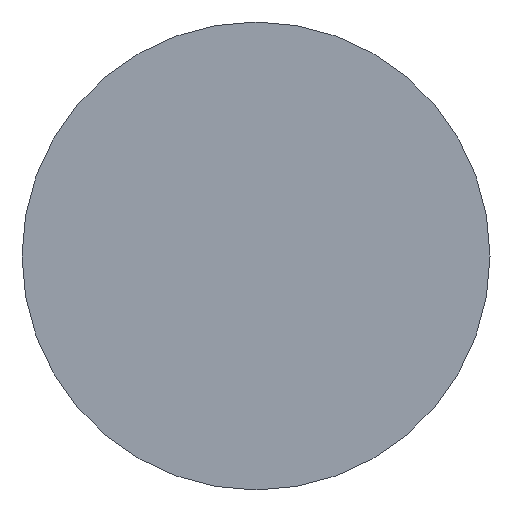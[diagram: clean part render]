
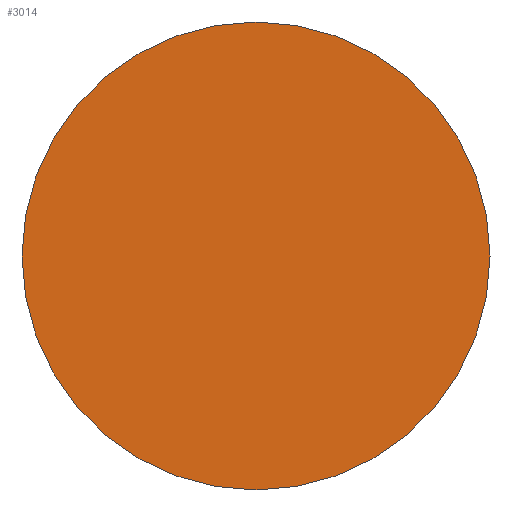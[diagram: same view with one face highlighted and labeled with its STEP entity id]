
A CAD part, front view. The second image highlights one B-rep face of the part: STEP entity #3014.
In plain terms, the highlighted planar face has unit normal (0, -1, 0).
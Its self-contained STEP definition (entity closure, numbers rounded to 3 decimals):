
#118 = AXIS2_PLACEMENT_3D ( 'NONE', #1493, #1872, #2501 ) ;
#373 = ORIENTED_EDGE ( 'NONE', *, *, #1808, .T. ) ;
#752 = VERTEX_POINT ( 'NONE', #2448 ) ;
#887 = AXIS2_PLACEMENT_3D ( 'NONE', #1599, #2889, #4198 ) ;
#923 = CIRCLE ( 'NONE', #3300, 41. ) ;
#931 = DIRECTION ( 'NONE',  ( 0., -1., 0. ) ) ;
#1493 = CARTESIAN_POINT ( 'NONE',  ( 0., -30., 0. ) ) ;
#1599 = CARTESIAN_POINT ( 'NONE',  ( 41., -30., 0. ) ) ;
#1803 = ORIENTED_EDGE ( 'NONE', *, *, #2067, .T. ) ;
#1808 = EDGE_CURVE ( 'NONE', #752, #3433, #923, .T. ) ;
#1872 = DIRECTION ( 'NONE',  ( 0., -1., 0. ) ) ;
#2067 = EDGE_CURVE ( 'NONE', #3433, #752, #2300, .T. ) ;
#2300 = CIRCLE ( 'NONE', #118, 41. ) ;
#2448 = CARTESIAN_POINT ( 'NONE',  ( 41., -30., 0. ) ) ;
#2501 = DIRECTION ( 'NONE',  ( 1., 0., 0. ) ) ;
#2602 = FACE_OUTER_BOUND ( 'NONE', #2737, .T. ) ;
#2737 = EDGE_LOOP ( 'NONE', ( #373, #1803 ) ) ;
#2889 = DIRECTION ( 'NONE',  ( 0., -1., 0. ) ) ;
#2928 = DIRECTION ( 'NONE',  ( 1., 0., 0. ) ) ;
#3014 = ADVANCED_FACE ( 'NONE', ( #2602 ), #3579, .T. ) ;
#3300 = AXIS2_PLACEMENT_3D ( 'NONE', #3862, #931, #2928 ) ;
#3433 = VERTEX_POINT ( 'NONE', #3689 ) ;
#3579 = PLANE ( 'NONE',  #887 ) ;
#3689 = CARTESIAN_POINT ( 'NONE',  ( -41., -30., 0. ) ) ;
#3862 = CARTESIAN_POINT ( 'NONE',  ( 0., -30., 0. ) ) ;
#4198 = DIRECTION ( 'NONE',  ( 1., 0., 0. ) ) ;
